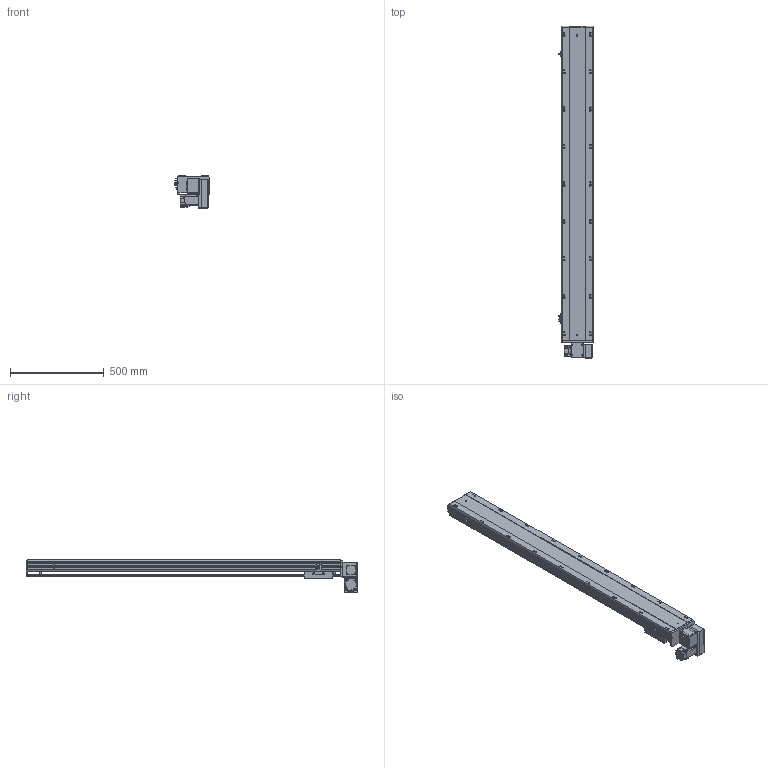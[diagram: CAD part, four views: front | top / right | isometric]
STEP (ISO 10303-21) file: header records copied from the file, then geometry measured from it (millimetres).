
FILE_DESCRIPTION (( 'STEP AP203' ), '1' );
FILE_NAME ('BTB17-L40-1400-LU-M40-C4.STEP', '2022-07-20T06:10:58', ( 'CXY' ), ( 'BT' ), 'SwSTEP 2.0', 'SolidWorks 2016', '' );
FILE_SCHEMA (( 'CONFIG_CONTROL_DESIGN' ));
Length unit declared in the file: millimetre
Products named in the file (11): BTB17-L-24; BTB17-L-HZ; M40; BTB17-L-04; BTB17-L-01; FS-07-T40(1); BTB17-L-23; BTB17-L40-1400-LU-M40-C4; BTB17-L-菁釱_XD; FS-08-T40; BTB17-L-06
Assembly tree (13 placements, depth 2):
  BTB17-L40-1400-LU-M40-C4
    BTB17-L-菁釱_XD
    BTB17-L-01
    BTB17-L-04  x3
    BTB17-L-06
    BTB17-L-23  x2
    BTB17-L-24
    BTB17-L-HZ
    FS-07-T40(1)
    FS-08-T40
    M40
Bounding box: 183.7 x 1773.5 x 171.5 mm (x, y, z)
Volume: 15031312.6 mm3; surface area: 2003890 mm2
Topology: 22 solids, 22 shells, 1651 faces, 4339 edges, 2748 vertices
Faces by surface type: plane 911, cylinder 548, cone 160, torus 16, bspline 16
Entity records: 43030 total; most frequent: CARTESIAN_POINT 8422, DIRECTION 7053, ORIENTED_EDGE 6814, EDGE_CURVE 3407, AXIS2_PLACEMENT_3D 2401, LINE 2251, VECTOR 2251, VERTEX_POINT 2216
